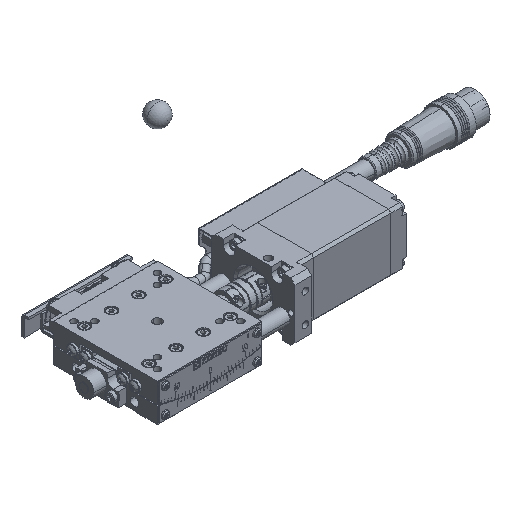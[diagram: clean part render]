
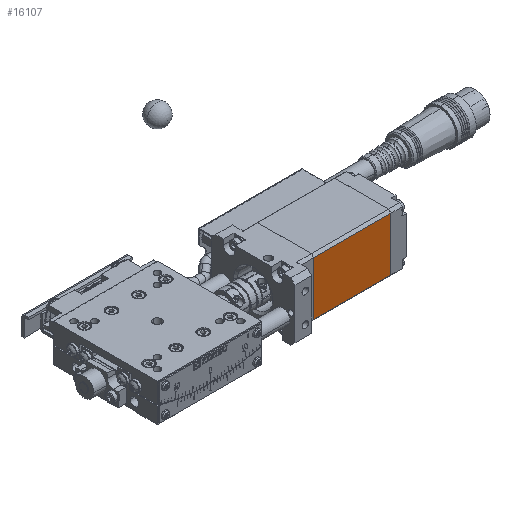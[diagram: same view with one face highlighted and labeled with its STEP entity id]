
A CAD part, isometric view. The second image highlights one B-rep face of the part: STEP entity #16107.
In plain terms, the highlighted planar face has unit normal (0, -1, 0).
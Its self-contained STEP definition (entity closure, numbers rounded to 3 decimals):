
#287 = EDGE_CURVE ( 'NONE', #29667, #15598, #54518, .T. ) ;
#3033 = DIRECTION ( 'NONE',  ( -1., 0., 0. ) ) ;
#4586 = CARTESIAN_POINT ( 'NONE',  ( 61., -14., 20.845 ) ) ;
#5060 = CARTESIAN_POINT ( 'NONE',  ( 105.5, -14., -4.845 ) ) ;
#5339 = PLANE ( 'NONE',  #35124 ) ;
#6425 = FACE_OUTER_BOUND ( 'NONE', #74146, .T. ) ;
#7927 = ORIENTED_EDGE ( 'NONE', *, *, #25401, .T. ) ;
#9946 = CARTESIAN_POINT ( 'NONE',  ( 97.99, -14., -4.845 ) ) ;
#12347 = LINE ( 'NONE', #67670, #42206 ) ;
#14091 = CARTESIAN_POINT ( 'NONE',  ( 61., -14., -4.845 ) ) ;
#15598 = VERTEX_POINT ( 'NONE', #81374 ) ;
#16107 = ADVANCED_FACE ( 'NONE', ( #6425 ), #5339, .T. ) ;
#16632 = VECTOR ( 'NONE', #64256, 1000. ) ;
#18034 = EDGE_CURVE ( 'NONE', #64343, #15598, #12347, .T. ) ;
#23368 = ORIENTED_EDGE ( 'NONE', *, *, #24771, .F. ) ;
#23967 = DIRECTION ( 'NONE',  ( 0., 0., 1. ) ) ;
#24771 = EDGE_CURVE ( 'NONE', #78182, #64343, #70067, .T. ) ;
#25401 = EDGE_CURVE ( 'NONE', #78182, #29667, #34064, .T. ) ;
#29667 = VERTEX_POINT ( 'NONE', #4586 ) ;
#33891 = CARTESIAN_POINT ( 'NONE',  ( 97.99, -14., 20.845 ) ) ;
#34064 = LINE ( 'NONE', #42258, #66008 ) ;
#35124 = AXIS2_PLACEMENT_3D ( 'NONE', #5060, #43452, #23967 ) ;
#42206 = VECTOR ( 'NONE', #73494, 1000. ) ;
#42258 = CARTESIAN_POINT ( 'NONE',  ( 105.5, -14., 20.845 ) ) ;
#43452 = DIRECTION ( 'NONE',  ( 0., -1., 0. ) ) ;
#53169 = VECTOR ( 'NONE', #55031, 1000. ) ;
#54518 = LINE ( 'NONE', #14091, #16632 ) ;
#55031 = DIRECTION ( 'NONE',  ( 0., 0., -1. ) ) ;
#59665 = ORIENTED_EDGE ( 'NONE', *, *, #18034, .F. ) ;
#64256 = DIRECTION ( 'NONE',  ( 0., 0., -1. ) ) ;
#64343 = VERTEX_POINT ( 'NONE', #68494 ) ;
#66008 = VECTOR ( 'NONE', #3033, 1000. ) ;
#67670 = CARTESIAN_POINT ( 'NONE',  ( 105.5, -14., -4.845 ) ) ;
#68494 = CARTESIAN_POINT ( 'NONE',  ( 97.99, -14., -4.845 ) ) ;
#70067 = LINE ( 'NONE', #9946, #53169 ) ;
#73494 = DIRECTION ( 'NONE',  ( -1., 0., 0. ) ) ;
#74146 = EDGE_LOOP ( 'NONE', ( #23368, #7927, #79652, #59665 ) ) ;
#78182 = VERTEX_POINT ( 'NONE', #33891 ) ;
#79652 = ORIENTED_EDGE ( 'NONE', *, *, #287, .T. ) ;
#81374 = CARTESIAN_POINT ( 'NONE',  ( 61., -14., -4.845 ) ) ;
